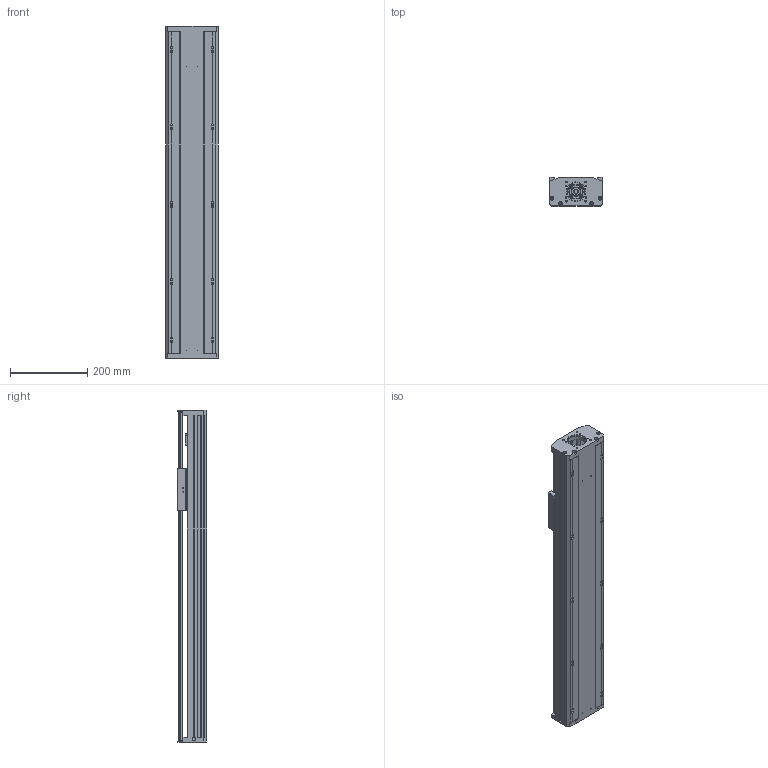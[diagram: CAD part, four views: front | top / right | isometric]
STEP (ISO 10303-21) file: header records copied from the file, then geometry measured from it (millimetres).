
FILE_DESCRIPTION(/* description */ (''),/* implementation_level */ '2;1');
FILE_NAME(/* name */ 'TKA136-F0-600_asm1.stp',/* time_stamp */ '2016-05-07T08:29:06+08:00',/* author */ (''),/* organization */ (''),/* preprocessor_version */ 'ST-DEVELOPER v15',/* originating_system */ 'SIEMENS PLM Software NX 8.5',/* authorisation */ '');
FILE_SCHEMA (('AUTOMOTIVE_DESIGN { 1 0 10303 214 3 1 1 1 }'));
Length unit declared in the file: millimetre
Products named in the file (3): 600-02; 600-01; TKA136-F0-600_asm1
Assembly tree (2 placements, depth 2):
  TKA136-F0-600_asm1
    600-01
    600-02
Bounding box: 136 x 75 x 857 mm (x, y, z)
Volume: 2766714.8 mm3; surface area: 1014180.4 mm2
Topology: 2 solids, 12 shells, 813 faces, 2281 edges, 1490 vertices
Faces by surface type: plane 383, cylinder 376, cone 54
Full cylindrical faces by diameter (mm): 2.5 x4, 3 x2, 3.3 x12, 4 x4, 4.2 x10, 4.5 x20, 5 x14, 5.5 x26, 6.6 x14, 8 x20, 10 x9, 10.5 x10, 11 x4, 11.6 x1, 12 x9, 15 x3, 16 x5, 17 x1, 24 x5, 26 x1, 28 x1, 46 x1, 50 x1
Entity records: 27132 total; most frequent: CARTESIAN_POINT 7344, DIRECTION 4097, ORIENTED_EDGE 3828, EDGE_CURVE 1914, AXIS2_PLACEMENT_3D 1559, VERTEX_POINT 1380, EDGE_LOOP 1188, LINE 979
